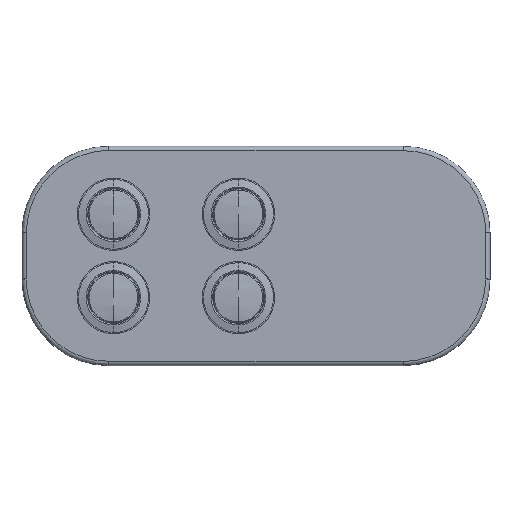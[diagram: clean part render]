
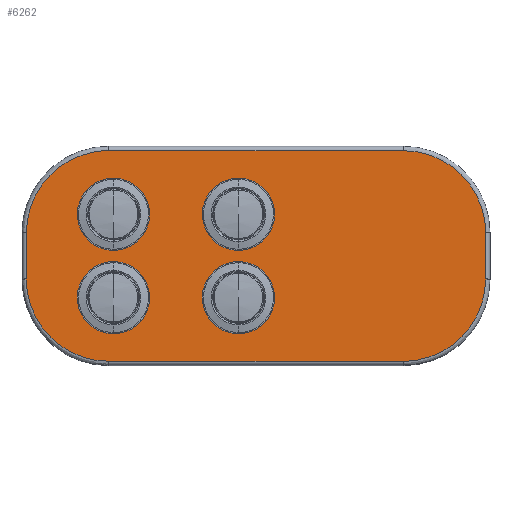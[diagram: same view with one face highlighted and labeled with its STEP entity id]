
A CAD part, top view. The second image highlights one B-rep face of the part: STEP entity #6262.
In plain terms, the highlighted planar face has unit normal (0, 0, 1).
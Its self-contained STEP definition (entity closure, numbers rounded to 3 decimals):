
#71=CARTESIAN_POINT('',(33.6,-78.5,0.));
#72=CARTESIAN_POINT('',(38.514,-78.466,0.));
#73=CARTESIAN_POINT('',(48.275,-82.575,0.));
#74=CARTESIAN_POINT('',(52.384,-92.336,0.));
#75=CARTESIAN_POINT('',(52.35,-97.25,0.));
#77=CARTESIAN_POINT('',(52.35,-107.75,0.));
#78=CARTESIAN_POINT('',(52.384,-112.664,0.));
#79=CARTESIAN_POINT('',(48.275,-122.425,0.));
#80=CARTESIAN_POINT('',(38.514,-126.534,0.));
#81=CARTESIAN_POINT('',(33.6,-126.5,0.));
#83=CARTESIAN_POINT('',(-33.6,-126.5,0.));
#84=CARTESIAN_POINT('',(-38.514,-126.534,0.));
#85=CARTESIAN_POINT('',(-48.275,-122.425,0.));
#86=CARTESIAN_POINT('',(-52.384,-112.664,0.));
#87=CARTESIAN_POINT('',(-52.35,-107.75,0.));
#89=CARTESIAN_POINT('',(-52.35,-97.25,0.));
#90=CARTESIAN_POINT('',(-52.384,-92.336,0.));
#91=CARTESIAN_POINT('',(-48.275,-82.575,0.));
#92=CARTESIAN_POINT('',(-38.514,-78.466,0.));
#93=CARTESIAN_POINT('',(-33.6,-78.5,0.));
#95=CARTESIAN_POINT('',(-32.5,-93.,0.));
#96=DIRECTION('',(0.,0.,1.));
#97=DIRECTION('',(0.,-1.,0.));
#98=AXIS2_PLACEMENT_3D('',#95,#96,#97);
#100=CARTESIAN_POINT('',(-32.5,-93.,0.));
#101=DIRECTION('',(0.,0.,1.));
#102=DIRECTION('',(0.036,0.999,0.));
#103=AXIS2_PLACEMENT_3D('',#100,#101,#102);
#105=CARTESIAN_POINT('',(-32.5,-93.,0.));
#106=DIRECTION('',(0.,0.,1.));
#107=DIRECTION('',(0.,1.,0.));
#108=AXIS2_PLACEMENT_3D('',#105,#106,#107);
#110=CARTESIAN_POINT('',(-32.5,-93.,0.));
#111=DIRECTION('',(0.,0.,1.));
#112=DIRECTION('',(-0.036,-0.999,0.));
#113=AXIS2_PLACEMENT_3D('',#110,#111,#112);
#115=CARTESIAN_POINT('',(-32.5,-112.,0.));
#116=DIRECTION('',(0.,0.,1.));
#117=DIRECTION('',(0.,-1.,0.));
#118=AXIS2_PLACEMENT_3D('',#115,#116,#117);
#120=CARTESIAN_POINT('',(-32.5,-112.,0.));
#121=DIRECTION('',(0.,0.,1.));
#122=DIRECTION('',(0.036,0.999,0.));
#123=AXIS2_PLACEMENT_3D('',#120,#121,#122);
#125=CARTESIAN_POINT('',(-32.5,-112.,0.));
#126=DIRECTION('',(0.,0.,1.));
#127=DIRECTION('',(0.,1.,0.));
#128=AXIS2_PLACEMENT_3D('',#125,#126,#127);
#130=CARTESIAN_POINT('',(-32.5,-112.,0.));
#131=DIRECTION('',(0.,0.,1.));
#132=DIRECTION('',(-0.036,-0.999,0.));
#133=AXIS2_PLACEMENT_3D('',#130,#131,#132);
#135=CARTESIAN_POINT('',(-4.,-93.,0.));
#136=DIRECTION('',(0.,0.,1.));
#137=DIRECTION('',(0.,-1.,0.));
#138=AXIS2_PLACEMENT_3D('',#135,#136,#137);
#140=CARTESIAN_POINT('',(-4.,-93.,0.));
#141=DIRECTION('',(0.,0.,1.));
#142=DIRECTION('',(0.036,0.999,0.));
#143=AXIS2_PLACEMENT_3D('',#140,#141,#142);
#145=CARTESIAN_POINT('',(-4.,-93.,0.));
#146=DIRECTION('',(0.,0.,1.));
#147=DIRECTION('',(0.,1.,0.));
#148=AXIS2_PLACEMENT_3D('',#145,#146,#147);
#150=CARTESIAN_POINT('',(-4.,-93.,0.));
#151=DIRECTION('',(0.,0.,1.));
#152=DIRECTION('',(-0.036,-0.999,0.));
#153=AXIS2_PLACEMENT_3D('',#150,#151,#152);
#155=CARTESIAN_POINT('',(-4.,-112.,0.));
#156=DIRECTION('',(0.,0.,1.));
#157=DIRECTION('',(0.,-1.,0.));
#158=AXIS2_PLACEMENT_3D('',#155,#156,#157);
#160=CARTESIAN_POINT('',(-4.,-112.,0.));
#161=DIRECTION('',(0.,0.,1.));
#162=DIRECTION('',(0.036,0.999,0.));
#163=AXIS2_PLACEMENT_3D('',#160,#161,#162);
#165=CARTESIAN_POINT('',(-4.,-112.,0.));
#166=DIRECTION('',(0.,0.,1.));
#167=DIRECTION('',(0.,1.,0.));
#168=AXIS2_PLACEMENT_3D('',#165,#166,#167);
#170=CARTESIAN_POINT('',(-4.,-112.,0.));
#171=DIRECTION('',(0.,0.,1.));
#172=DIRECTION('',(-0.036,-0.999,0.));
#173=AXIS2_PLACEMENT_3D('',#170,#171,#172);
#3983=DIRECTION('',(-1.,0.,0.));
#3984=VECTOR('',#3983,67.2);
#3985=CARTESIAN_POINT('',(33.6,-78.5,0.));
#3986=LINE('',#3985,#3984);
#4001=DIRECTION('',(0.,-1.,0.));
#4002=VECTOR('',#4001,10.5);
#4003=CARTESIAN_POINT('',(-52.35,-97.25,0.));
#4004=LINE('',#4003,#4002);
#4019=DIRECTION('',(1.,0.,0.));
#4020=VECTOR('',#4019,67.2);
#4021=CARTESIAN_POINT('',(-33.6,-126.5,0.));
#4022=LINE('',#4021,#4020);
#4037=DIRECTION('',(0.,1.,0.));
#4038=VECTOR('',#4037,10.5);
#4039=CARTESIAN_POINT('',(52.35,-107.75,0.));
#4040=LINE('',#4039,#4038);
#4999=VERTEX_POINT('',#71);
#5000=VERTEX_POINT('',#75);
#5001=CARTESIAN_POINT('',(52.35,-107.75,0.));
#5002=VERTEX_POINT('',#5001);
#5003=VERTEX_POINT('',#81);
#5004=CARTESIAN_POINT('',(-33.6,-126.5,0.));
#5005=VERTEX_POINT('',#5004);
#5006=VERTEX_POINT('',#87);
#5007=CARTESIAN_POINT('',(-52.35,-97.25,0.));
#5008=VERTEX_POINT('',#5007);
#5009=VERTEX_POINT('',#93);
#5010=CARTESIAN_POINT('',(-32.5,-101.235,0.));
#5011=CARTESIAN_POINT('',(-32.202,-84.771,0.));
#5012=VERTEX_POINT('',#5010);
#5013=VERTEX_POINT('',#5011);
#5014=CARTESIAN_POINT('',(-32.5,-84.765,0.));
#5015=VERTEX_POINT('',#5014);
#5016=CARTESIAN_POINT('',(-32.798,-101.229,0.));
#5017=VERTEX_POINT('',#5016);
#5018=CARTESIAN_POINT('',(-32.5,-120.235,0.));
#5019=CARTESIAN_POINT('',(-32.202,-103.771,0.));
#5020=VERTEX_POINT('',#5018);
#5021=VERTEX_POINT('',#5019);
#5022=CARTESIAN_POINT('',(-32.5,-103.765,0.));
#5023=VERTEX_POINT('',#5022);
#5024=CARTESIAN_POINT('',(-32.798,-120.229,0.));
#5025=VERTEX_POINT('',#5024);
#5026=CARTESIAN_POINT('',(-4.,-101.235,0.));
#5027=CARTESIAN_POINT('',(-3.702,-84.771,0.));
#5028=VERTEX_POINT('',#5026);
#5029=VERTEX_POINT('',#5027);
#5030=CARTESIAN_POINT('',(-4.,-84.765,0.));
#5031=VERTEX_POINT('',#5030);
#5032=CARTESIAN_POINT('',(-4.298,-101.229,0.));
#5033=VERTEX_POINT('',#5032);
#5034=CARTESIAN_POINT('',(-4.,-120.235,0.));
#5035=CARTESIAN_POINT('',(-3.702,-103.771,0.));
#5036=VERTEX_POINT('',#5034);
#5037=VERTEX_POINT('',#5035);
#5038=CARTESIAN_POINT('',(-4.,-103.765,0.));
#5039=VERTEX_POINT('',#5038);
#5040=CARTESIAN_POINT('',(-4.298,-120.229,0.));
#5041=VERTEX_POINT('',#5040);
#6199=CARTESIAN_POINT('',(-53.431,-127.014,0.));
#6200=DIRECTION('',(0.,0.,1.));
#6201=DIRECTION('',(1.,0.,0.));
#6202=AXIS2_PLACEMENT_3D('',#6199,#6200,#6201);
#6203=PLANE('',#6202);
#6205=ORIENTED_EDGE('',*,*,#6204,.T.);
#6207=ORIENTED_EDGE('',*,*,#6206,.F.);
#6209=ORIENTED_EDGE('',*,*,#6208,.T.);
#6211=ORIENTED_EDGE('',*,*,#6210,.F.);
#6213=ORIENTED_EDGE('',*,*,#6212,.T.);
#6215=ORIENTED_EDGE('',*,*,#6214,.F.);
#6217=ORIENTED_EDGE('',*,*,#6216,.T.);
#6219=ORIENTED_EDGE('',*,*,#6218,.F.);
#6220=EDGE_LOOP('',(#6205,#6207,#6209,#6211,#6213,#6215,#6217,#6219));
#6221=FACE_OUTER_BOUND('',#6220,.F.);
#6223=ORIENTED_EDGE('',*,*,#6222,.T.);
#6225=ORIENTED_EDGE('',*,*,#6224,.T.);
#6227=ORIENTED_EDGE('',*,*,#6226,.T.);
#6229=ORIENTED_EDGE('',*,*,#6228,.T.);
#6230=EDGE_LOOP('',(#6223,#6225,#6227,#6229));
#6231=FACE_BOUND('',#6230,.F.);
#6233=ORIENTED_EDGE('',*,*,#6232,.T.);
#6235=ORIENTED_EDGE('',*,*,#6234,.T.);
#6237=ORIENTED_EDGE('',*,*,#6236,.T.);
#6239=ORIENTED_EDGE('',*,*,#6238,.T.);
#6240=EDGE_LOOP('',(#6233,#6235,#6237,#6239));
#6241=FACE_BOUND('',#6240,.F.);
#6243=ORIENTED_EDGE('',*,*,#6242,.T.);
#6245=ORIENTED_EDGE('',*,*,#6244,.T.);
#6247=ORIENTED_EDGE('',*,*,#6246,.T.);
#6249=ORIENTED_EDGE('',*,*,#6248,.T.);
#6250=EDGE_LOOP('',(#6243,#6245,#6247,#6249));
#6251=FACE_BOUND('',#6250,.F.);
#6253=ORIENTED_EDGE('',*,*,#6252,.T.);
#6255=ORIENTED_EDGE('',*,*,#6254,.T.);
#6257=ORIENTED_EDGE('',*,*,#6256,.T.);
#6259=ORIENTED_EDGE('',*,*,#6258,.T.);
#6260=EDGE_LOOP('',(#6253,#6255,#6257,#6259));
#6261=FACE_BOUND('',#6260,.F.);
#76=B_SPLINE_CURVE_WITH_KNOTS('',3,(#71,#72,#73,#74,#75),.UNSPECIFIED.,.F.,.F.,(
4,1,4),(0.,0.5,1.),.UNSPECIFIED.);
#82=B_SPLINE_CURVE_WITH_KNOTS('',3,(#77,#78,#79,#80,#81),.UNSPECIFIED.,.F.,.F.,(
4,1,4),(0.,0.5,1.),.UNSPECIFIED.);
#88=B_SPLINE_CURVE_WITH_KNOTS('',3,(#83,#84,#85,#86,#87),.UNSPECIFIED.,.F.,.F.,(
4,1,4),(0.,0.5,1.),.UNSPECIFIED.);
#94=B_SPLINE_CURVE_WITH_KNOTS('',3,(#89,#90,#91,#92,#93),.UNSPECIFIED.,.F.,.F.,(
4,1,4),(0.,0.5,1.),.UNSPECIFIED.);
#99=CIRCLE('',#98,8.235);
#104=CIRCLE('',#103,8.235);
#109=CIRCLE('',#108,8.235);
#114=CIRCLE('',#113,8.235);
#119=CIRCLE('',#118,8.235);
#124=CIRCLE('',#123,8.235);
#129=CIRCLE('',#128,8.235);
#134=CIRCLE('',#133,8.235);
#139=CIRCLE('',#138,8.235);
#144=CIRCLE('',#143,8.235);
#149=CIRCLE('',#148,8.235);
#154=CIRCLE('',#153,8.235);
#159=CIRCLE('',#158,8.235);
#164=CIRCLE('',#163,8.235);
#169=CIRCLE('',#168,8.235);
#174=CIRCLE('',#173,8.235);
#6204=EDGE_CURVE('',#4999,#5000,#76,.T.);
#6206=EDGE_CURVE('',#5002,#5000,#4040,.T.);
#6208=EDGE_CURVE('',#5002,#5003,#82,.T.);
#6210=EDGE_CURVE('',#5005,#5003,#4022,.T.);
#6212=EDGE_CURVE('',#5005,#5006,#88,.T.);
#6214=EDGE_CURVE('',#5008,#5006,#4004,.T.);
#6216=EDGE_CURVE('',#5008,#5009,#94,.T.);
#6218=EDGE_CURVE('',#4999,#5009,#3986,.T.);
#6222=EDGE_CURVE('',#5012,#5013,#99,.T.);
#6224=EDGE_CURVE('',#5013,#5015,#104,.T.);
#6226=EDGE_CURVE('',#5015,#5017,#109,.T.);
#6228=EDGE_CURVE('',#5017,#5012,#114,.T.);
#6232=EDGE_CURVE('',#5020,#5021,#119,.T.);
#6234=EDGE_CURVE('',#5021,#5023,#124,.T.);
#6236=EDGE_CURVE('',#5023,#5025,#129,.T.);
#6238=EDGE_CURVE('',#5025,#5020,#134,.T.);
#6242=EDGE_CURVE('',#5028,#5029,#139,.T.);
#6244=EDGE_CURVE('',#5029,#5031,#144,.T.);
#6246=EDGE_CURVE('',#5031,#5033,#149,.T.);
#6248=EDGE_CURVE('',#5033,#5028,#154,.T.);
#6252=EDGE_CURVE('',#5036,#5037,#159,.T.);
#6254=EDGE_CURVE('',#5037,#5039,#164,.T.);
#6256=EDGE_CURVE('',#5039,#5041,#169,.T.);
#6258=EDGE_CURVE('',#5041,#5036,#174,.T.);
#6262=ADVANCED_FACE('',(#6221,#6231,#6241,#6251,#6261),#6203,.T.);
